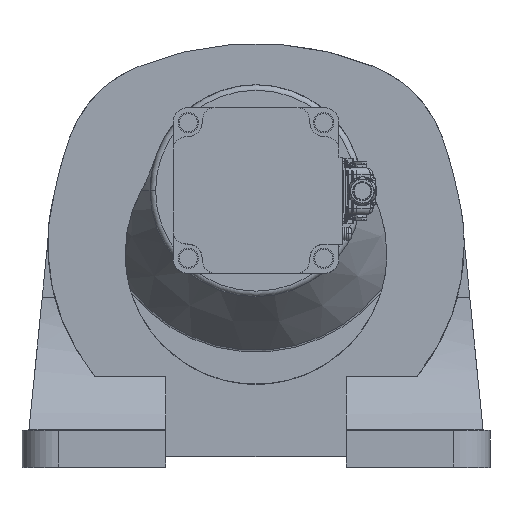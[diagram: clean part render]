
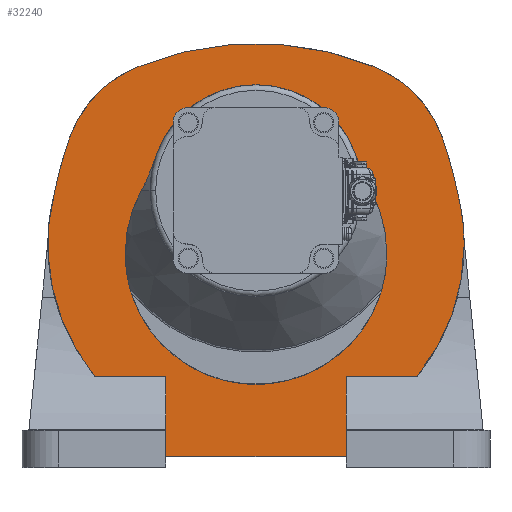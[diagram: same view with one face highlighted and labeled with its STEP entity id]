
A CAD part, top view. The second image highlights one B-rep face of the part: STEP entity #32240.
In plain terms, the highlighted planar face has unit normal (0, 0, 1).
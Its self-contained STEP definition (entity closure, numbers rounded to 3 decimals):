
#44 = EDGE_CURVE ( 'NONE', #35149, #17245, #41032, .T. ) ;
#62 = VECTOR ( 'NONE', #22624, 1000. ) ;
#167 = VECTOR ( 'NONE', #37157, 1000. ) ;
#963 = VERTEX_POINT ( 'NONE', #20977 ) ;
#1279 = LINE ( 'NONE', #12367, #167 ) ;
#1499 = CARTESIAN_POINT ( 'NONE',  ( -48.9, -100.532, -116.5 ) ) ;
#1576 = VERTEX_POINT ( 'NONE', #6550 ) ;
#2139 = AXIS2_PLACEMENT_3D ( 'NONE', #15440, #40224, #18981 ) ;
#2198 = ORIENTED_EDGE ( 'NONE', *, *, #42924, .T. ) ;
#2227 = DIRECTION ( 'NONE',  ( 0., 0., 1. ) ) ;
#2434 = EDGE_LOOP ( 'NONE', ( #14070, #32420 ) ) ;
#3667 = VERTEX_POINT ( 'NONE', #33824 ) ;
#3961 = DIRECTION ( 'NONE',  ( 0., 0., 1. ) ) ;
#4261 = CARTESIAN_POINT ( 'NONE',  ( 48.9, -100.532, -116.5 ) ) ;
#4392 = CARTESIAN_POINT ( 'NONE',  ( -48.9, -100.532, -116.5 ) ) ;
#5022 = CIRCLE ( 'NONE', #14873, 71. ) ;
#5431 = VERTEX_POINT ( 'NONE', #29726 ) ;
#5696 = CARTESIAN_POINT ( 'NONE',  ( -39.899, 7.124, -116.5 ) ) ;
#6546 = EDGE_CURVE ( 'NONE', #12877, #45784, #8854, .T. ) ;
#6550 = CARTESIAN_POINT ( 'NONE',  ( -87.476, -100.532, -116.5 ) ) ;
#7389 = CARTESIAN_POINT ( 'NONE',  ( 87.476, -100.532, -116.5 ) ) ;
#7793 = VECTOR ( 'NONE', #21844, 1000. ) ;
#8243 = CARTESIAN_POINT ( 'NONE',  ( -64.598, 67.249, -116.5 ) ) ;
#8375 = CARTESIAN_POINT ( 'NONE',  ( 39.899, 7.124, -116.5 ) ) ;
#8854 = LINE ( 'NONE', #4261, #36024 ) ;
#9219 = AXIS2_PLACEMENT_3D ( 'NONE', #36225, #18554, #43378 ) ;
#9749 = CIRCLE ( 'NONE', #39567, 113. ) ;
#10244 = CARTESIAN_POINT ( 'NONE',  ( 108.915, 1.11, -116.5 ) ) ;
#10437 = EDGE_CURVE ( 'NONE', #26610, #5431, #9749, .T. ) ;
#10800 = AXIS2_PLACEMENT_3D ( 'NONE', #35311, #14095, #38900 ) ;
#11208 = EDGE_CURVE ( 'NONE', #5431, #33956, #34658, .T. ) ;
#11420 = CARTESIAN_POINT ( 'NONE',  ( -101.56, -42.77, -116.5 ) ) ;
#11440 = PLANE ( 'NONE',  #9219 ) ;
#11759 = AXIS2_PLACEMENT_3D ( 'NONE', #11420, #36200, #14979 ) ;
#11957 = DIRECTION ( 'NONE',  ( -1., 0., 0. ) ) ;
#12077 = EDGE_CURVE ( 'NONE', #41555, #15431, #15977, .T. ) ;
#12367 = CARTESIAN_POINT ( 'NONE',  ( -124.685, -100.532, -116.5 ) ) ;
#12877 = VERTEX_POINT ( 'NONE', #33286 ) ;
#12981 = AXIS2_PLACEMENT_3D ( 'NONE', #23398, #2227, #26960 ) ;
#14070 = ORIENTED_EDGE ( 'NONE', *, *, #18751, .F. ) ;
#14095 = DIRECTION ( 'NONE',  ( 0., 0., 1. ) ) ;
#14667 = CARTESIAN_POINT ( 'NONE',  ( -101.198, 28.745, -116.5 ) ) ;
#14873 = AXIS2_PLACEMENT_3D ( 'NONE', #38392, #17165, #41958 ) ;
#14972 = CIRCLE ( 'NONE', #2139, 215. ) ;
#14979 = DIRECTION ( 'NONE',  ( -1., 0., 0. ) ) ;
#15431 = VERTEX_POINT ( 'NONE', #31814 ) ;
#15440 = CARTESIAN_POINT ( 'NONE',  ( 101.56, -42.77, -116.5 ) ) ;
#15977 = LINE ( 'NONE', #1499, #34805 ) ;
#16802 = CARTESIAN_POINT ( 'NONE',  ( 0., -29., -116.5 ) ) ;
#17089 = ORIENTED_EDGE ( 'NONE', *, *, #12077, .T. ) ;
#17165 = DIRECTION ( 'NONE',  ( 0., 0., 1. ) ) ;
#17218 = ORIENTED_EDGE ( 'NONE', *, *, #10437, .T. ) ;
#17243 = LINE ( 'NONE', #25095, #7793 ) ;
#17245 = VERTEX_POINT ( 'NONE', #14667 ) ;
#17389 = ORIENTED_EDGE ( 'NONE', *, *, #26940, .T. ) ;
#17766 = LINE ( 'NONE', #43891, #62 ) ;
#18137 = ORIENTED_EDGE ( 'NONE', *, *, #44, .T. ) ;
#18320 = EDGE_CURVE ( 'NONE', #41555, #1576, #17243, .T. ) ;
#18554 = DIRECTION ( 'NONE',  ( 0., 0., -1. ) ) ;
#18690 = CIRCLE ( 'NONE', #12981, 71. ) ;
#18751 = EDGE_CURVE ( 'NONE', #24299, #29188, #5022, .T. ) ;
#18871 = DIRECTION ( 'NONE',  ( 0., 0., 1. ) ) ;
#18981 = DIRECTION ( 'NONE',  ( -1., 0., 0. ) ) ;
#19074 = EDGE_CURVE ( 'NONE', #17245, #963, #14972, .T. ) ;
#19415 = CARTESIAN_POINT ( 'NONE',  ( 0., -90., -116.5 ) ) ;
#19717 = CARTESIAN_POINT ( 'NONE',  ( -71., -34., -116.5 ) ) ;
#19881 = DIRECTION ( 'NONE',  ( -1., 0., 0. ) ) ;
#20364 = DIRECTION ( 'NONE',  ( 1., 0., 0. ) ) ;
#20977 = CARTESIAN_POINT ( 'NONE',  ( -108.915, 1.11, -116.5 ) ) ;
#21519 = CARTESIAN_POINT ( 'NONE',  ( 71., -34., -116.5 ) ) ;
#21580 = ORIENTED_EDGE ( 'NONE', *, *, #37393, .T. ) ;
#21844 = DIRECTION ( 'NONE',  ( -1., 0., 0. ) ) ;
#22624 = DIRECTION ( 'NONE',  ( 1., 0., 0. ) ) ;
#22757 = AXIS2_PLACEMENT_3D ( 'NONE', #19415, #44250, #22982 ) ;
#22982 = DIRECTION ( 'NONE',  ( -1., 0., 0. ) ) ;
#23398 = CARTESIAN_POINT ( 'NONE',  ( 0., -34., -116.5 ) ) ;
#23951 = ORIENTED_EDGE ( 'NONE', *, *, #18320, .F. ) ;
#24299 = VERTEX_POINT ( 'NONE', #21519 ) ;
#24436 = ORIENTED_EDGE ( 'NONE', *, *, #31690, .T. ) ;
#25095 = CARTESIAN_POINT ( 'NONE',  ( -124.685, -100.532, -116.5 ) ) ;
#25155 = CARTESIAN_POINT ( 'NONE',  ( 0., -29., -116.5 ) ) ;
#26533 = AXIS2_PLACEMENT_3D ( 'NONE', #5696, #18871, #19881 ) ;
#26610 = VERTEX_POINT ( 'NONE', #7389 ) ;
#26940 = EDGE_CURVE ( 'NONE', #27601, #35149, #30638, .T. ) ;
#26960 = DIRECTION ( 'NONE',  ( -1., 0., 0. ) ) ;
#27601 = VERTEX_POINT ( 'NONE', #42604 ) ;
#27710 = FACE_BOUND ( 'NONE', #2434, .T. ) ;
#28592 = EDGE_CURVE ( 'NONE', #26610, #45784, #1279, .T. ) ;
#28687 = DIRECTION ( 'NONE',  ( 1., 0., 0. ) ) ;
#29188 = VERTEX_POINT ( 'NONE', #19717 ) ;
#29726 = CARTESIAN_POINT ( 'NONE',  ( 113., -29., -116.5 ) ) ;
#29960 = DIRECTION ( 'NONE',  ( 0., -1., 0. ) ) ;
#30190 = ORIENTED_EDGE ( 'NONE', *, *, #11208, .T. ) ;
#30638 = CIRCLE ( 'NONE', #22757, 170. ) ;
#30766 = CIRCLE ( 'NONE', #11759, 215. ) ;
#31690 = EDGE_CURVE ( 'NONE', #3667, #27601, #45572, .T. ) ;
#31814 = CARTESIAN_POINT ( 'NONE',  ( -48.9, -144., -116.5 ) ) ;
#32240 = ADVANCED_FACE ( 'NONE', ( #45527, #27710 ), #11440, .F. ) ;
#32420 = ORIENTED_EDGE ( 'NONE', *, *, #38187, .F. ) ;
#32589 = DIRECTION ( 'NONE',  ( 0., 1., 0. ) ) ;
#33188 = DIRECTION ( 'NONE',  ( 0., 0., 1. ) ) ;
#33286 = CARTESIAN_POINT ( 'NONE',  ( 48.9, -144., -116.5 ) ) ;
#33531 = EDGE_CURVE ( 'NONE', #15431, #12877, #17766, .T. ) ;
#33640 = ORIENTED_EDGE ( 'NONE', *, *, #33531, .T. ) ;
#33824 = CARTESIAN_POINT ( 'NONE',  ( 101.198, 28.745, -116.5 ) ) ;
#33956 = VERTEX_POINT ( 'NONE', #10244 ) ;
#34345 = EDGE_LOOP ( 'NONE', ( #17389, #18137, #34697, #2198, #23951, #17089, #33640, #44020, #37071, #17218, #30190, #21580, #24436 ) ) ;
#34658 = CIRCLE ( 'NONE', #10800, 113. ) ;
#34697 = ORIENTED_EDGE ( 'NONE', *, *, #19074, .T. ) ;
#34805 = VECTOR ( 'NONE', #29960, 1000. ) ;
#35149 = VERTEX_POINT ( 'NONE', #8243 ) ;
#35296 = AXIS2_PLACEMENT_3D ( 'NONE', #25155, #3961, #28687 ) ;
#35311 = CARTESIAN_POINT ( 'NONE',  ( 0., -29., -116.5 ) ) ;
#36024 = VECTOR ( 'NONE', #32589, 1000. ) ;
#36200 = DIRECTION ( 'NONE',  ( 0., 0., 1. ) ) ;
#36225 = CARTESIAN_POINT ( 'NONE',  ( 0., 0., -116.5 ) ) ;
#37071 = ORIENTED_EDGE ( 'NONE', *, *, #28592, .F. ) ;
#37157 = DIRECTION ( 'NONE',  ( -1., 0., 0. ) ) ;
#37216 = CIRCLE ( 'NONE', #35296, 113. ) ;
#37393 = EDGE_CURVE ( 'NONE', #33956, #3667, #30766, .T. ) ;
#38187 = EDGE_CURVE ( 'NONE', #29188, #24299, #18690, .T. ) ;
#38392 = CARTESIAN_POINT ( 'NONE',  ( 0., -34., -116.5 ) ) ;
#38900 = DIRECTION ( 'NONE',  ( 1., 0., 0. ) ) ;
#39567 = AXIS2_PLACEMENT_3D ( 'NONE', #16802, #41596, #20364 ) ;
#40224 = DIRECTION ( 'NONE',  ( 0., 0., 1. ) ) ;
#40401 = AXIS2_PLACEMENT_3D ( 'NONE', #8375, #33188, #11957 ) ;
#41032 = CIRCLE ( 'NONE', #26533, 65. ) ;
#41555 = VERTEX_POINT ( 'NONE', #4392 ) ;
#41596 = DIRECTION ( 'NONE',  ( 0., 0., 1. ) ) ;
#41958 = DIRECTION ( 'NONE',  ( -1., 0., 0. ) ) ;
#42604 = CARTESIAN_POINT ( 'NONE',  ( 64.598, 67.249, -116.5 ) ) ;
#42924 = EDGE_CURVE ( 'NONE', #963, #1576, #37216, .T. ) ;
#43378 = DIRECTION ( 'NONE',  ( -1., 0., 0. ) ) ;
#43891 = CARTESIAN_POINT ( 'NONE',  ( 48.9, -144., -116.5 ) ) ;
#44020 = ORIENTED_EDGE ( 'NONE', *, *, #6546, .T. ) ;
#44250 = DIRECTION ( 'NONE',  ( 0., 0., 1. ) ) ;
#45033 = CARTESIAN_POINT ( 'NONE',  ( 48.9, -100.532, -116.5 ) ) ;
#45527 = FACE_OUTER_BOUND ( 'NONE', #34345, .T. ) ;
#45572 = CIRCLE ( 'NONE', #40401, 65. ) ;
#45784 = VERTEX_POINT ( 'NONE', #45033 ) ;
